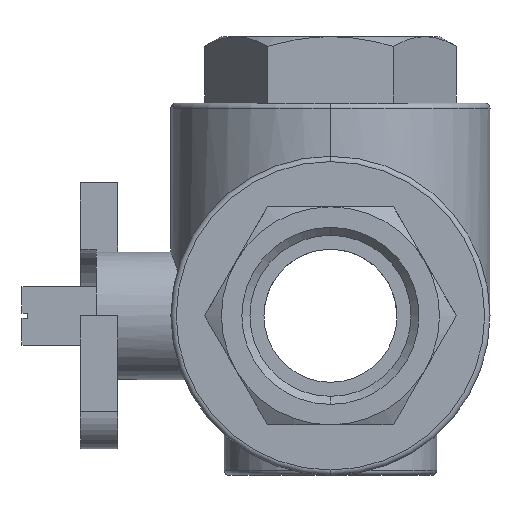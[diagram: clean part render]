
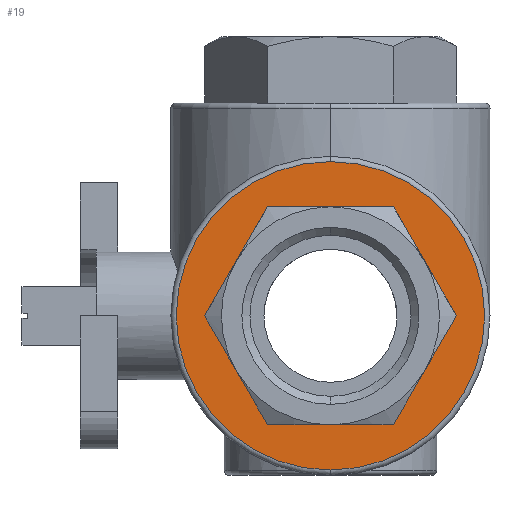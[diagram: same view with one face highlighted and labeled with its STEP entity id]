
A CAD part, left-side view. The second image highlights one B-rep face of the part: STEP entity #19.
In plain terms, the highlighted planar face has unit normal (-1, 0, 0).
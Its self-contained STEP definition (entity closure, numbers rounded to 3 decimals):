
#19 = ADVANCED_FACE ( 'NONE', ( #2823, #2836 ), #1661, .T. ) ;
#138 = LINE ( 'NONE', #2009, #147 ) ;
#147 = VECTOR ( 'NONE', #2006, 1000. ) ;
#154 = CIRCLE ( 'NONE', #1015, 29. ) ;
#367 = CIRCLE ( 'NONE', #1080, 29. ) ;
#382 = VECTOR ( 'NONE', #3763, 1000. ) ;
#388 = LINE ( 'NONE', #3791, #402 ) ;
#389 = LINE ( 'NONE', #3762, #382 ) ;
#390 = LINE ( 'NONE', #3736, #391 ) ;
#391 = VECTOR ( 'NONE', #3737, 1000. ) ;
#393 = LINE ( 'NONE', #3778, #394 ) ;
#394 = VECTOR ( 'NONE', #3779, 1000. ) ;
#402 = VECTOR ( 'NONE', #3795, 1000. ) ;
#404 = LINE ( 'NONE', #3811, #405 ) ;
#405 = VECTOR ( 'NONE', #3812, 1000. ) ;
#620 = EDGE_CURVE ( 'NONE', #1568, #1567, #138, .T. ) ;
#624 = EDGE_CURVE ( 'NONE', #1526, #1527, #154, .T. ) ;
#790 = EDGE_CURVE ( 'NONE', #1527, #1526, #367, .T. ) ;
#814 = EDGE_CURVE ( 'NONE', #1576, #1573, #390, .T. ) ;
#818 = EDGE_CURVE ( 'NONE', #1573, #1575, #389, .T. ) ;
#821 = EDGE_CURVE ( 'NONE', #1575, #1569, #393, .T. ) ;
#826 = EDGE_CURVE ( 'NONE', #1567, #1576, #388, .T. ) ;
#829 = EDGE_CURVE ( 'NONE', #1569, #1568, #404, .T. ) ;
#1015 = AXIS2_PLACEMENT_3D ( 'NONE', #1995, #1994, #1993 ) ;
#1080 = AXIS2_PLACEMENT_3D ( 'NONE', #3618, #3620, #3621 ) ;
#1266 = AXIS2_PLACEMENT_3D ( 'NONE', #1810, #1662, #1663 ) ;
#1526 = VERTEX_POINT ( 'NONE', #4260 ) ;
#1527 = VERTEX_POINT ( 'NONE', #4261 ) ;
#1567 = VERTEX_POINT ( 'NONE', #4300 ) ;
#1568 = VERTEX_POINT ( 'NONE', #4301 ) ;
#1569 = VERTEX_POINT ( 'NONE', #4302 ) ;
#1573 = VERTEX_POINT ( 'NONE', #4306 ) ;
#1575 = VERTEX_POINT ( 'NONE', #4308 ) ;
#1576 = VERTEX_POINT ( 'NONE', #4309 ) ;
#1661 = PLANE ( 'NONE',  #1266 ) ;
#1662 = DIRECTION ( 'NONE',  ( -1., 0., 0. ) ) ;
#1663 = DIRECTION ( 'NONE',  ( 0., 0., 1. ) ) ;
#1810 = CARTESIAN_POINT ( 'NONE',  ( -40., 0., 0. ) ) ;
#1993 = DIRECTION ( 'NONE',  ( 0., 0., 1. ) ) ;
#1994 = DIRECTION ( 'NONE',  ( -1., 0., 0. ) ) ;
#1995 = CARTESIAN_POINT ( 'NONE',  ( -40., 0., 0. ) ) ;
#2006 = DIRECTION ( 'NONE',  ( 0., -1., 0. ) ) ;
#2009 = CARTESIAN_POINT ( 'NONE',  ( -40., 0., 20.5 ) ) ;
#2130 = ORIENTED_EDGE ( 'NONE', *, *, #790, .T. ) ;
#2132 = ORIENTED_EDGE ( 'NONE', *, *, #624, .T. ) ;
#2133 = ORIENTED_EDGE ( 'NONE', *, *, #829, .T. ) ;
#2135 = ORIENTED_EDGE ( 'NONE', *, *, #620, .T. ) ;
#2136 = ORIENTED_EDGE ( 'NONE', *, *, #826, .T. ) ;
#2138 = ORIENTED_EDGE ( 'NONE', *, *, #814, .T. ) ;
#2139 = ORIENTED_EDGE ( 'NONE', *, *, #818, .T. ) ;
#2140 = ORIENTED_EDGE ( 'NONE', *, *, #821, .T. ) ;
#2823 = FACE_OUTER_BOUND ( 'NONE', #2897, .T. ) ;
#2836 = FACE_BOUND ( 'NONE', #2911, .T. ) ;
#2897 = EDGE_LOOP ( 'NONE', ( #2132, #2130 ) ) ;
#2911 = EDGE_LOOP ( 'NONE', ( #2133, #2135, #2136, #2138, #2139, #2140 ) ) ;
#3618 = CARTESIAN_POINT ( 'NONE',  ( -40., 0., 0. ) ) ;
#3620 = DIRECTION ( 'NONE',  ( -1., 0., 0. ) ) ;
#3621 = DIRECTION ( 'NONE',  ( 0., 0., 1. ) ) ;
#3736 = CARTESIAN_POINT ( 'NONE',  ( -40., -17.754, -10.25 ) ) ;
#3737 = DIRECTION ( 'NONE',  ( 0., 0.5, -0.866 ) ) ;
#3762 = CARTESIAN_POINT ( 'NONE',  ( -40., 0., -20.5 ) ) ;
#3763 = DIRECTION ( 'NONE',  ( 0., 1., 0. ) ) ;
#3778 = CARTESIAN_POINT ( 'NONE',  ( -40., 17.754, -10.25 ) ) ;
#3779 = DIRECTION ( 'NONE',  ( 0., 0.5, 0.866 ) ) ;
#3791 = CARTESIAN_POINT ( 'NONE',  ( -40., -17.754, 10.25 ) ) ;
#3795 = DIRECTION ( 'NONE',  ( 0., -0.5, -0.866 ) ) ;
#3811 = CARTESIAN_POINT ( 'NONE',  ( -40., 17.754, 10.25 ) ) ;
#3812 = DIRECTION ( 'NONE',  ( 0., -0.5, 0.866 ) ) ;
#4260 = CARTESIAN_POINT ( 'NONE',  ( -40., 0., 29. ) ) ;
#4261 = CARTESIAN_POINT ( 'NONE',  ( -40., 0., -29. ) ) ;
#4300 = CARTESIAN_POINT ( 'NONE',  ( -40., -11.836, 20.5 ) ) ;
#4301 = CARTESIAN_POINT ( 'NONE',  ( -40., 11.836, 20.5 ) ) ;
#4302 = CARTESIAN_POINT ( 'NONE',  ( -40., 23.671, 0. ) ) ;
#4306 = CARTESIAN_POINT ( 'NONE',  ( -40., -11.836, -20.5 ) ) ;
#4308 = CARTESIAN_POINT ( 'NONE',  ( -40., 11.836, -20.5 ) ) ;
#4309 = CARTESIAN_POINT ( 'NONE',  ( -40., -23.671, 0. ) ) ;
